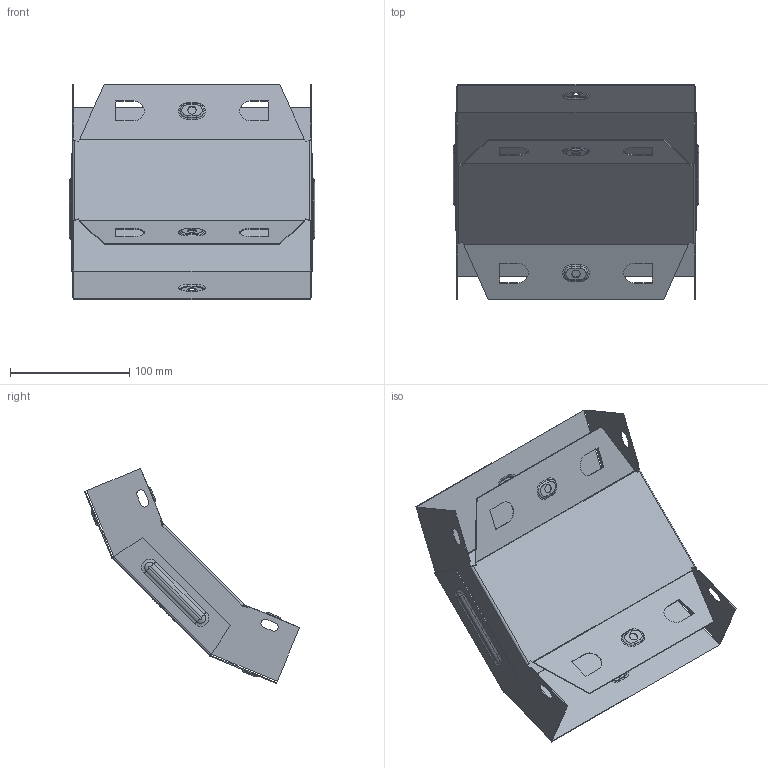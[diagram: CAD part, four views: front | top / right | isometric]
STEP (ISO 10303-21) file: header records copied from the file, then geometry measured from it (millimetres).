
FILE_DESCRIPTION (( 'STEP AP214' ), '1' );
FILE_NAME ('vo4550200_捘.STEP', '2019-06-10T08:19:23', ( '砐錪賧瘔蠈錪 Windows' ), ( '' ), 'SwSTEP 2.0', 'SolidWorks 2018', '' );
FILE_SCHEMA (( 'AUTOMOTIVE_DESIGN' ));
Length unit declared in the file: millimetre
Products named in the file (1): vo4550200_捘
Bounding box: 205.6 x 180.14 x 180.14 mm (x, y, z)
Volume: 86776.6 mm3; surface area: 219284.3 mm2
Topology: 2 solids, 2 shells, 368 faces, 906 edges, 564 vertices
Faces by surface type: plane 177, cylinder 110, torus 64, bspline 17
Entity records: 11466 total; most frequent: CARTESIAN_POINT 2595, DIRECTION 1860, ORIENTED_EDGE 1812, EDGE_CURVE 906, AXIS2_PLACEMENT_3D 652, VERTEX_POINT 564, LINE 556, VECTOR 556
